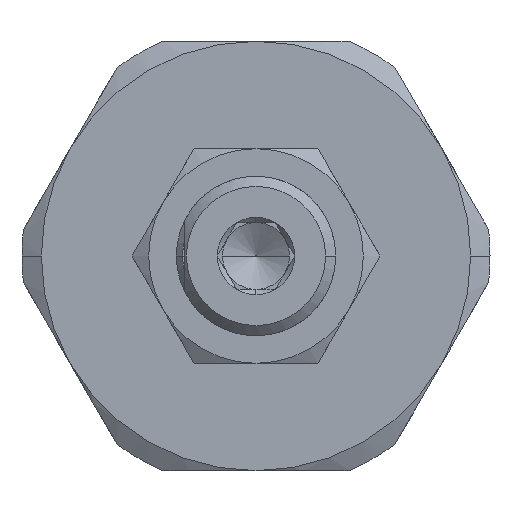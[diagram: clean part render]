
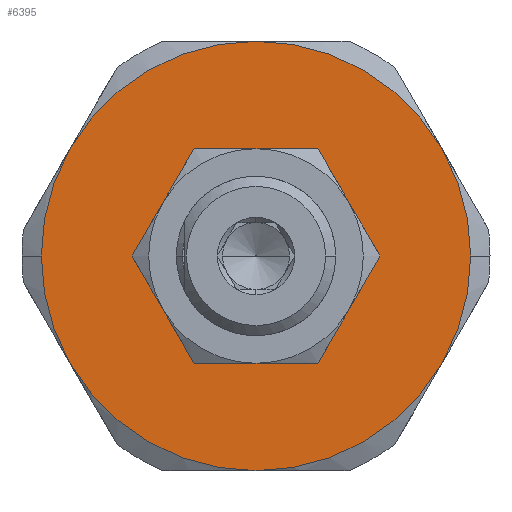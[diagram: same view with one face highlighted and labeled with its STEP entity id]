
A CAD part, left-side view. The second image highlights one B-rep face of the part: STEP entity #6395.
In plain terms, the highlighted planar face has unit normal (-1, 0, 0).
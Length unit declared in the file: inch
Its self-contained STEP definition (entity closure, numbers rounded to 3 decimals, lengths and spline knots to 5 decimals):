
#778=CARTESIAN_POINT('',(0.61,0.5,2.61));
#779=VERTEX_POINT('',#778);
#795=CARTESIAN_POINT('',(0.61,0.43301,2.36));
#796=VERTEX_POINT('',#795);
#810=CARTESIAN_POINT('',(0.61,0.,2.61));
#811=DIRECTION('',(-1.0,0.0,0.0));
#812=DIRECTION('',(0.0,1.0,0.0));
#813=AXIS2_PLACEMENT_3D('',#810,#811,#812);
#814=CIRCLE('',#813,0.5);
#815=EDGE_CURVE('',#779,#796,#814,.T.);
#825=CARTESIAN_POINT('',(0.61,-0.5,2.61));
#826=VERTEX_POINT('',#825);
#833=CARTESIAN_POINT('',(0.61,-0.43301,2.36));
#834=VERTEX_POINT('',#833);
#835=CARTESIAN_POINT('',(0.61,0.,2.61));
#836=DIRECTION('',(-1.0,0.0,0.0));
#837=DIRECTION('',(0.0,1.0,0.0));
#838=AXIS2_PLACEMENT_3D('',#835,#836,#837);
#839=CIRCLE('',#838,0.5);
#840=EDGE_CURVE('',#834,#826,#839,.T.);
#4806=CARTESIAN_POINT('',(0.61,0.21651,2.735));
#4807=VERTEX_POINT('',#4806);
#4821=CARTESIAN_POINT('',(0.61,0.,2.86));
#4822=VERTEX_POINT('',#4821);
#4836=CARTESIAN_POINT('',(0.61,0.,2.61));
#4837=DIRECTION('',(1.0,0.0,0.0));
#4838=DIRECTION('',(0.0,0.0,1.0));
#4839=AXIS2_PLACEMENT_3D('',#4836,#4837,#4838);
#4840=CIRCLE('',#4839,0.25);
#4841=EDGE_CURVE('',#4807,#4822,#4840,.T.);
#4853=CARTESIAN_POINT('',(0.61,0.21651,2.485));
#4854=VERTEX_POINT('',#4853);
#4881=CARTESIAN_POINT('',(0.61,0.,2.61));
#4882=DIRECTION('',(1.0,0.0,0.0));
#4883=DIRECTION('',(0.0,0.0,1.0));
#4884=AXIS2_PLACEMENT_3D('',#4881,#4882,#4883);
#4885=CIRCLE('',#4884,0.25);
#4886=EDGE_CURVE('',#4854,#4807,#4885,.T.);
#4898=CARTESIAN_POINT('',(0.61,0.,2.36));
#4899=VERTEX_POINT('',#4898);
#4926=CARTESIAN_POINT('',(0.61,0.,2.61));
#4927=DIRECTION('',(1.0,0.0,0.0));
#4928=DIRECTION('',(0.0,0.0,1.0));
#4929=AXIS2_PLACEMENT_3D('',#4926,#4927,#4928);
#4930=CIRCLE('',#4929,0.25);
#4931=EDGE_CURVE('',#4899,#4854,#4930,.T.);
#4956=CARTESIAN_POINT('',(0.61,-0.21651,2.485));
#4957=VERTEX_POINT('',#4956);
#4958=CARTESIAN_POINT('',(0.61,0.,2.61));
#4959=DIRECTION('',(1.0,0.0,0.0));
#4960=DIRECTION('',(0.0,0.0,1.0));
#4961=AXIS2_PLACEMENT_3D('',#4958,#4959,#4960);
#4962=CIRCLE('',#4961,0.25);
#4963=EDGE_CURVE('',#4957,#4899,#4962,.T.);
#5001=CARTESIAN_POINT('',(0.61,-0.21651,2.735));
#5002=VERTEX_POINT('',#5001);
#5003=CARTESIAN_POINT('',(0.61,0.,2.61));
#5004=DIRECTION('',(1.0,0.0,0.0));
#5005=DIRECTION('',(0.0,0.0,1.0));
#5006=AXIS2_PLACEMENT_3D('',#5003,#5004,#5005);
#5007=CIRCLE('',#5006,0.25);
#5008=EDGE_CURVE('',#5002,#4957,#5007,.T.);
#5046=CARTESIAN_POINT('',(0.61,0.,2.61));
#5047=DIRECTION('',(1.0,0.0,0.0));
#5048=DIRECTION('',(0.0,0.0,1.0));
#5049=AXIS2_PLACEMENT_3D('',#5046,#5047,#5048);
#5050=CIRCLE('',#5049,0.25);
#5051=EDGE_CURVE('',#4822,#5002,#5050,.T.);
#6328=CARTESIAN_POINT('',(0.61,0.,2.61));
#6329=DIRECTION('',(1.0,0.0,0.0));
#6330=DIRECTION('',(0.0,0.0,-1.0));
#6331=AXIS2_PLACEMENT_3D('',#6328,#6329,#6330);
#6332=PLANE('',#6331);
#6333=CARTESIAN_POINT('',(0.61,-0.43301,2.86));
#6334=VERTEX_POINT('',#6333);
#6335=CARTESIAN_POINT('',(0.61,0.,3.11));
#6336=VERTEX_POINT('',#6335);
#6337=CARTESIAN_POINT('',(0.61,0.,2.61));
#6338=DIRECTION('',(-1.0,0.0,0.0));
#6339=DIRECTION('',(0.0,1.0,0.0));
#6340=AXIS2_PLACEMENT_3D('',#6337,#6338,#6339);
#6341=CIRCLE('',#6340,0.5);
#6342=EDGE_CURVE('',#6334,#6336,#6341,.T.);
#6343=ORIENTED_EDGE('',*,*,#6342,.T.);
#6344=CARTESIAN_POINT('',(0.61,0.43301,2.86));
#6345=VERTEX_POINT('',#6344);
#6346=CARTESIAN_POINT('',(0.61,0.,2.61));
#6347=DIRECTION('',(-1.0,0.0,0.0));
#6348=DIRECTION('',(0.0,1.0,0.0));
#6349=AXIS2_PLACEMENT_3D('',#6346,#6347,#6348);
#6350=CIRCLE('',#6349,0.5);
#6351=EDGE_CURVE('',#6336,#6345,#6350,.T.);
#6352=ORIENTED_EDGE('',*,*,#6351,.T.);
#6353=CARTESIAN_POINT('',(0.61,0.,2.61));
#6354=DIRECTION('',(-1.0,0.0,0.0));
#6355=DIRECTION('',(0.0,1.0,0.0));
#6356=AXIS2_PLACEMENT_3D('',#6353,#6354,#6355);
#6357=CIRCLE('',#6356,0.5);
#6358=EDGE_CURVE('',#6345,#779,#6357,.T.);
#6359=ORIENTED_EDGE('',*,*,#6358,.T.);
#6360=ORIENTED_EDGE('',*,*,#815,.T.);
#6361=CARTESIAN_POINT('',(0.61,0.,2.11));
#6362=VERTEX_POINT('',#6361);
#6363=CARTESIAN_POINT('',(0.61,0.,2.61));
#6364=DIRECTION('',(-1.0,0.0,0.0));
#6365=DIRECTION('',(0.0,1.0,0.0));
#6366=AXIS2_PLACEMENT_3D('',#6363,#6364,#6365);
#6367=CIRCLE('',#6366,0.5);
#6368=EDGE_CURVE('',#796,#6362,#6367,.T.);
#6369=ORIENTED_EDGE('',*,*,#6368,.T.);
#6370=CARTESIAN_POINT('',(0.61,0.,2.61));
#6371=DIRECTION('',(-1.0,0.0,0.0));
#6372=DIRECTION('',(0.0,1.0,0.0));
#6373=AXIS2_PLACEMENT_3D('',#6370,#6371,#6372);
#6374=CIRCLE('',#6373,0.5);
#6375=EDGE_CURVE('',#6362,#834,#6374,.T.);
#6376=ORIENTED_EDGE('',*,*,#6375,.T.);
#6377=ORIENTED_EDGE('',*,*,#840,.T.);
#6378=CARTESIAN_POINT('',(0.61,0.,2.61));
#6379=DIRECTION('',(-1.0,0.0,0.0));
#6380=DIRECTION('',(0.0,1.0,0.0));
#6381=AXIS2_PLACEMENT_3D('',#6378,#6379,#6380);
#6382=CIRCLE('',#6381,0.5);
#6383=EDGE_CURVE('',#826,#6334,#6382,.T.);
#6384=ORIENTED_EDGE('',*,*,#6383,.T.);
#6385=EDGE_LOOP('',(#6343,#6352,#6359,#6360,#6369,#6376,#6377,#6384));
#6386=FACE_OUTER_BOUND('',#6385,.T.);
#6387=ORIENTED_EDGE('',*,*,#4841,.T.);
#6388=ORIENTED_EDGE('',*,*,#5051,.T.);
#6389=ORIENTED_EDGE('',*,*,#5008,.T.);
#6390=ORIENTED_EDGE('',*,*,#4963,.T.);
#6391=ORIENTED_EDGE('',*,*,#4931,.T.);
#6392=ORIENTED_EDGE('',*,*,#4886,.T.);
#6393=EDGE_LOOP('',(#6387,#6388,#6389,#6390,#6391,#6392));
#6394=FACE_BOUND('',#6393,.T.);
#6395=ADVANCED_FACE('',(#6386,#6394),#6332,.F.);
